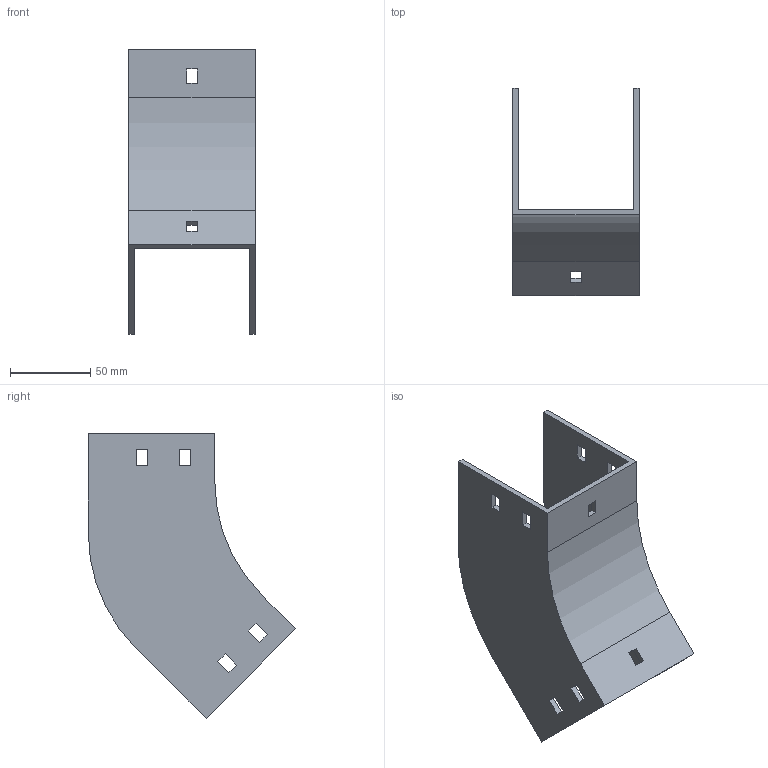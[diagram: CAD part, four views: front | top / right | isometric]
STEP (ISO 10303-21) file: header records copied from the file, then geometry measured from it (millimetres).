
FILE_DESCRIPTION (( 'STEP AP214' ), '1' );
FILE_NAME ('34F1C075.step', '2025-02-21T12:51:13', ( '' ), ( '' ), 'SwSTEP 2.0', 'SolidWorks 2023', '' );
FILE_SCHEMA (( 'AUTOMOTIVE_DESIGN' ));
Length unit declared in the file: millimetre
Products named in the file (1): 34F1C075
Bounding box: 79 x 129.5 x 177.79 mm (x, y, z)
Volume: 129976.7 mm3; surface area: 78469.7 mm2
Topology: 1 solids, 1 shells, 58 faces, 168 edges, 112 vertices
Faces by surface type: plane 54, cylinder 4
Entity records: 1943 total; most frequent: CARTESIAN_POINT 339, ORIENTED_EDGE 336, DIRECTION 294, EDGE_CURVE 168, LINE 160, VECTOR 160, VERTEX_POINT 112, EDGE_LOOP 78
